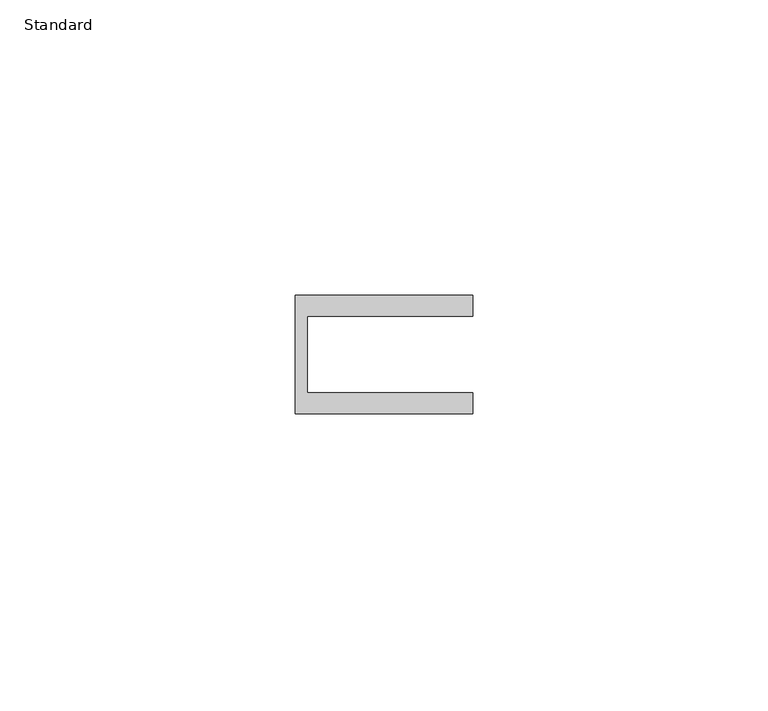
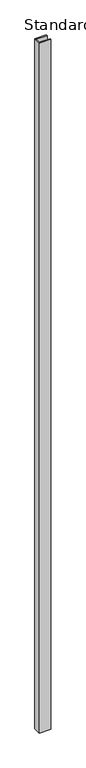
"""IFC4 building model written with IfcOpenShell, lengths in millimetres: furniture geometry, X_Partition-Channel-Duracube-End : Standard."""

import ifcopenshell
import ifcopenshell.guid

model = None  # the IFC model being written
_history = None  # IfcOwnerHistory: only IFC2X3 demands one
_inside = {}  # id of a spatial element -> (the spatial element, [elements in it])
_under = {}  # id of a project, library or spatial element -> (it, [spatial elements below it])
_declared = {}  # id of a project -> (the project, [libraries it declares])
_typed = {}  # id of a type object -> (the type object, [elements of that type])
_made_of = {}  # id of a material, layer set ... -> (it, [elements and type objects made of it])


def new_model(schema):
    """Start an empty IFC model of exactly this schema.

    Asked for "IFC4X3", IfcOpenShell would pick the latest addendum, in which some entities
    have other attributes; the version numbers below select the first issue.
    IFC2X3 requires an IfcOwnerHistory on every rooted entity: one is made here for all.
    """
    global model, _history
    if schema == "IFC4X3":
        model = ifcopenshell.file(schema_version=(4, 3, 0, 0))
    else:
        model = ifcopenshell.file(schema=schema)
    _inside.clear()
    _under.clear()
    _declared.clear()
    _typed.clear()
    _made_of.clear()
    _history = None
    if model.schema == "IFC2X3":
        org = make("IfcOrganization", Name="unknown")
        user = make(
            "IfcPersonAndOrganization",
            ThePerson=make("IfcPerson", FamilyName="unknown"),
            TheOrganization=org,
        )
        app = make(
            "IfcApplication",
            ApplicationDeveloper=org,
            Version="unknown",
            ApplicationFullName="unknown",
            ApplicationIdentifier="unknown",
        )
        _history = make(
            "IfcOwnerHistory",
            OwningUser=user,
            OwningApplication=app,
            ChangeAction="ADDED",
            CreationDate=0,
        )
    return model


def make(cls, **values):
    """One entity of the class cls with the attributes given. An attribute that is None is left unset."""
    return model.create_entity(
        cls, **{name: value for name, value in values.items() if value is not None}
    )


def rooted(cls, **values):
    """An entity with a GlobalId (a new one), such as an element, a storey or a relation."""
    return make(cls, GlobalId=ifcopenshell.guid.new(), OwnerHistory=_history, **values)


def si_unit(unit_type, name, prefix=None):
    """IfcSIUnit, for example si_unit("LENGTHUNIT", "METRE", prefix="MILLI")."""
    return make("IfcSIUnit", UnitType=unit_type, Prefix=prefix, Name=name)


def assignment(units):
    """IfcUnitAssignment: the units of a project."""
    return None if units is None else make("IfcUnitAssignment", Units=units)


def point(xyz):
    """IfcCartesianPoint."""
    return None if xyz is None else make("IfcCartesianPoint", Coordinates=xyz)


def direction(xyz):
    """IfcDirection."""
    return None if xyz is None else make("IfcDirection", DirectionRatios=xyz)


def frame(location, z_axis=None, x_axis=None):
    """IfcAxis2Placement3D, a coordinate frame: its origin and axes. An axis left out is left unset."""
    return make(
        "IfcAxis2Placement3D",
        Location=point(location),
        Axis=direction(z_axis),
        RefDirection=direction(x_axis),
    )


def origin():
    """The frame at (0, 0, 0) with its axes left unset."""
    return frame((0.0, 0.0, 0.0))


def origin_with_axes():
    """The frame at (0, 0, 0) with the z axis (0, 0, 1) and the x axis (1, 0, 0) written out."""
    return frame((0.0, 0.0, 0.0), z_axis=(0.0, 0.0, 1.0), x_axis=(1.0, 0.0, 0.0))


def place(relative_to, where):
    """IfcLocalPlacement: puts the frame where relative to a parent placement (None: the world)."""
    return make(
        "IfcLocalPlacement", PlacementRelTo=relative_to, RelativePlacement=where
    )


def context(
    kind, dimensions, precision=None, world=None, true_north=None, identifier=None
):
    """IfcGeometricRepresentationContext, for example the 3D "Model" context."""
    return make(
        "IfcGeometricRepresentationContext",
        ContextIdentifier=identifier,
        ContextType=kind,
        CoordinateSpaceDimension=dimensions,
        Precision=precision,
        WorldCoordinateSystem=world,
        TrueNorth=true_north,
    )


def project(units=None, contexts=None):
    """IfcProject with its units and contexts."""
    return rooted(
        "IfcProject",
        Name="project",
        RepresentationContexts=contexts,
        UnitsInContext=assignment(units),
    )


def spatial(cls, under=None, at=None, **own):
    """A site, building, storey or space (cls), placed at a placement, below another one or the project."""
    s = rooted(cls, ObjectPlacement=at, **own)
    if under is not None:
        _under.setdefault(under.id(), (under, []))[1].append(s)
    return s


def polyline(points):
    """IfcPolyline through the points."""
    return make("IfcPolyline", Points=[point(p) for p in points])


def outline(outer, holes=None, kind="AREA"):
    """IfcArbitraryClosedProfileDef: a profile drawn as a closed curve; with holes, ...WithVoids."""
    if holes is None:
        return make("IfcArbitraryClosedProfileDef", ProfileType=kind, OuterCurve=outer)
    return make(
        "IfcArbitraryProfileDefWithVoids",
        ProfileType=kind,
        OuterCurve=outer,
        InnerCurves=holes,
    )


def extrude(swept, where, along, depth):
    """IfcExtrudedAreaSolid: the profile swept, set in the frame where, extruded along a direction by depth."""
    return make(
        "IfcExtrudedAreaSolid",
        SweptArea=swept,
        Position=where,
        ExtrudedDirection=direction(along),
        Depth=depth,
    )


def shape(context_of_items, identifier, shape_type, items):
    """IfcShapeRepresentation: the items that make up one representation, for example the "Body"."""
    return make(
        "IfcShapeRepresentation",
        ContextOfItems=context_of_items,
        RepresentationIdentifier=identifier,
        RepresentationType=shape_type,
        Items=items,
    )


def source(mapping_origin, context_of_items, identifier, shape_type, items):
    """IfcRepresentationMap: a shape defined once, which mapped items show again and again."""
    return make(
        "IfcRepresentationMap",
        MappingOrigin=mapping_origin,
        MappedRepresentation=shape(context_of_items, identifier, shape_type, items),
    )


def transform(
    local_origin,
    x_axis=None,
    y_axis=None,
    z_axis=None,
    scale=None,
    scale2=None,
    scale3=None,
    uniform=True,
):
    """IfcCartesianTransformationOperator3D, or its non-uniform kind. x_axis, y_axis, z_axis: its Axis1, 2, 3."""
    if uniform:
        return make(
            "IfcCartesianTransformationOperator3D",
            Axis1=direction(x_axis),
            Axis2=direction(y_axis),
            LocalOrigin=point(local_origin),
            Scale=scale,
            Axis3=direction(z_axis),
        )
    return make(
        "IfcCartesianTransformationOperator3DnonUniform",
        Axis1=direction(x_axis),
        Axis2=direction(y_axis),
        LocalOrigin=point(local_origin),
        Scale=scale,
        Axis3=direction(z_axis),
        Scale2=scale2,
        Scale3=scale3,
    )


def mapped(mapping_source, mapping_target):
    """IfcMappedItem: shows the shape of a source again, moved by a transform."""
    return make(
        "IfcMappedItem", MappingSource=mapping_source, MappingTarget=mapping_target
    )


def made_of(thing, what):
    """Note that an element or type object is made of a material, layer set ...; save() writes the relation."""
    if what is not None:
        _made_of.setdefault(what.id(), (what, []))[1].append(thing)
    return thing


def element(
    cls,
    number,
    at=None,
    inside=None,
    cuts=None,
    type_object=None,
    material=None,
    context=None,
    identifier="Body",
    shape_type=None,
    held_by="IfcProductDefinitionShape",
    body=None,
    shapes=None,
    **own,
):
    """One element of the class cls, such as IfcWall. Its Tag is "e" and its number.

    at: its placement. inside: the storey or other place that contains it. cuts: it is an
    opening in that element (IfcRelVoidsElement). A single representation is given by context,
    identifier, shape_type and body (its items); several are given by shapes. held_by: the class
    of the entity that holds the representations. save() writes the other relations.
    """
    e = rooted(cls, Tag="e%d" % number, ObjectPlacement=at, **own)
    if body is not None:
        shapes = [shape(context, identifier, shape_type, body)]
    if shapes is not None:
        e.Representation = make(held_by, Representations=shapes)
    if inside is not None:
        _inside.setdefault(inside.id(), (inside, []))[1].append(e)
    if cuts is not None:
        rooted(
            "IfcRelVoidsElement", RelatingBuildingElement=cuts, RelatedOpeningElement=e
        )
    if type_object is not None:
        _typed.setdefault(type_object.id(), (type_object, []))[1].append(e)
    return made_of(e, material)


def aggregate(whole, parts):
    """IfcRelAggregates: a whole, such as a stair, and the parts it consists of."""
    return rooted("IfcRelAggregates", RelatingObject=whole, RelatedObjects=parts)


def save(model, path):
    """Write the relations noted so far, then the file.

    IfcRelAggregates (storeys below a building ...), IfcRelContainedInSpatialStructure (elements
    in a storey), IfcRelDefinesByType, IfcRelAssociatesMaterial and IfcRelDeclares: one each for
    every whole, place, type object, material and project.
    """
    for whole, parts in _under.values():
        aggregate(whole, parts)
    for where, things in _inside.values():
        rooted(
            "IfcRelContainedInSpatialStructure",
            RelatedElements=things,
            RelatingStructure=where,
        )
    for kind, things in _typed.values():
        rooted("IfcRelDefinesByType", RelatedObjects=things, RelatingType=kind)
    for what, things in _made_of.values():
        rooted("IfcRelAssociatesMaterial", RelatedObjects=things, RelatingMaterial=what)
    for by, libraries in _declared.values():
        rooted("IfcRelDeclares", RelatingContext=by, RelatedDefinitions=libraries)
    model.write(path)


def standard_d525bc8d(model_context):
    return source(origin(), model_context, "Body", "SweptSolid", [
        extrude(outline(polyline([(31.7003264, 0.0), (31.7003264, -13.0), (59.7003264, -13.0), (59.7003264, -16.5), (29.7003264, -16.5), (29.7003264, 3.5), (59.7003264, 3.5), (59.7003264, 0.0), (31.7003264, 0.0)])), origin_with_axes(), (0.0, 0.0, 1.0), 1900.0),
    ])


if __name__ == "__main__":
    model = new_model("IFC4")
    model_context = context("Model", 3, world=origin())
    ifc_project = project(units=[si_unit("LENGTHUNIT", "METRE", prefix="MILLI")], contexts=[model_context])
    site = spatial("IfcSite", under=ifc_project)
    building = spatial("IfcBuilding", under=site)
    placement = place(None, origin())
    standard_shape = standard_d525bc8d(model_context)
    element("IfcFurniture", 1, ObjectType="X_Partition-Channel-Duracube-End : Standard", at=placement, inside=building, context=model_context, shape_type="MappedRepresentation", body=[
        mapped(standard_shape, transform((0.0, 0.0, 0.0), x_axis=(1.0, 0.0, 0.0), y_axis=(0.0, 1.0, 0.0), z_axis=(0.0, 0.0, 1.0))),
    ])
    save(model, "model.ifc")
